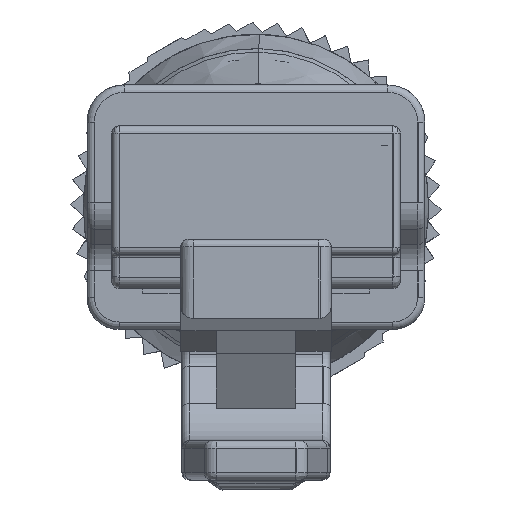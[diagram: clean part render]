
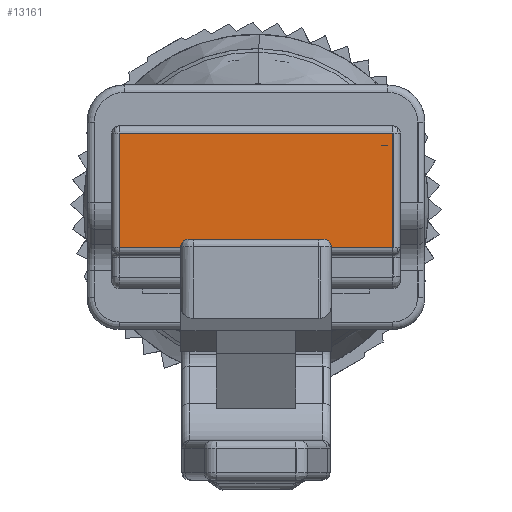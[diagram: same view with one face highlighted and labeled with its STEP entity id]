
A CAD part, left-side view. The second image highlights one B-rep face of the part: STEP entity #13161.
In plain terms, the highlighted planar face has unit normal (-1, 0, 0).
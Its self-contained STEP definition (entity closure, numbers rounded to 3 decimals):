
#980 = VECTOR ( 'NONE', #29069, 1000. ) ;
#1851 = CARTESIAN_POINT ( 'NONE',  ( -286.604, 5.019, -1.938 ) ) ;
#2329 = CARTESIAN_POINT ( 'NONE',  ( -286.604, 2.529, 2.192 ) ) ;
#2653 = DIRECTION ( 'NONE',  ( 0., 1., 0. ) ) ;
#3380 = DIRECTION ( 'NONE',  ( 0., 1., 0. ) ) ;
#3664 = ORIENTED_EDGE ( 'NONE', *, *, #62603, .T. ) ;
#3934 = CARTESIAN_POINT ( 'NONE',  ( -286.604, -5.611, 2.196 ) ) ;
#4379 = FACE_OUTER_BOUND ( 'NONE', #28051, .T. ) ;
#4822 = CARTESIAN_POINT ( 'NONE',  ( -286.604, -3.571, 2.192 ) ) ;
#5380 = EDGE_CURVE ( 'NONE', #25722, #13791, #19134, .T. ) ;
#5382 = ORIENTED_EDGE ( 'NONE', *, *, #11854, .T. ) ;
#5756 = B_SPLINE_CURVE_WITH_KNOTS ( 'NONE', 3,
 ( #44274, #29864, #16099, #54192 ),
 .UNSPECIFIED., .F., .F.,
 ( 4, 4 ),
 ( 0., 1. ),
 .UNSPECIFIED. ) ;
#5758 = CARTESIAN_POINT ( 'NONE',  ( -286.604, -3.571, -1.908 ) ) ;
#6350 = VERTEX_POINT ( 'NONE', #33490 ) ;
#6613 = CARTESIAN_POINT ( 'NONE',  ( -286.604, 5.019, -23.419 ) ) ;
#7095 = CARTESIAN_POINT ( 'NONE',  ( -286.604, -5.611, 2.198 ) ) ;
#7137 = DIRECTION ( 'NONE',  ( 1., 0., 0. ) ) ;
#7574 = VERTEX_POINT ( 'NONE', #20344 ) ;
#7633 = AXIS2_PLACEMENT_3D ( 'NONE', #60804, #17000, #27205 ) ;
#8144 = VECTOR ( 'NONE', #35224, 1000. ) ;
#8788 = VERTEX_POINT ( 'NONE', #16411 ) ;
#9300 = LINE ( 'NONE', #53089, #980 ) ;
#9397 = VECTOR ( 'NONE', #14424, 1000. ) ;
#10901 = EDGE_CURVE ( 'NONE', #22070, #23111, #34784, .T. ) ;
#11528 = ORIENTED_EDGE ( 'NONE', *, *, #37987, .T. ) ;
#11730 = VECTOR ( 'NONE', #38308, 1000. ) ;
#11854 = EDGE_CURVE ( 'NONE', #51992, #16990, #58212, .T. ) ;
#11903 = LINE ( 'NONE', #2329, #24231 ) ;
#12006 = LINE ( 'NONE', #12325, #55083 ) ;
#12325 = CARTESIAN_POINT ( 'NONE',  ( -286.604, 5.369, 2.192 ) ) ;
#12940 = DIRECTION ( 'NONE',  ( 0., 0., 1. ) ) ;
#13094 = AXIS2_PLACEMENT_3D ( 'NONE', #13494, #7137, #2653 ) ;
#13161 = ADVANCED_FACE ( 'NONE', ( #4379, #53595 ), #18738, .F. ) ;
#13494 = CARTESIAN_POINT ( 'NONE',  ( -286.604, -3.271, -1.908 ) ) ;
#13513 = CARTESIAN_POINT ( 'NONE',  ( -286.604, -5.611, 2.192 ) ) ;
#13635 = DIRECTION ( 'NONE',  ( 0., 1., 0. ) ) ;
#13791 = VERTEX_POINT ( 'NONE', #7095 ) ;
#13925 = ORIENTED_EDGE ( 'NONE', *, *, #26184, .T. ) ;
#14424 = DIRECTION ( 'NONE',  ( 0., 0., -1. ) ) ;
#14492 = ORIENTED_EDGE ( 'NONE', *, *, #5380, .T. ) ;
#14791 = LINE ( 'NONE', #59527, #8144 ) ;
#15342 = LINE ( 'NONE', #54336, #19357 ) ;
#16086 = EDGE_CURVE ( 'NONE', #53414, #48850, #11903, .T. ) ;
#16099 = CARTESIAN_POINT ( 'NONE',  ( -286.604, -5.778, 2.198 ) ) ;
#16411 = CARTESIAN_POINT ( 'NONE',  ( -286.604, -5.861, 2.192 ) ) ;
#16990 = VERTEX_POINT ( 'NONE', #24052 ) ;
#17000 = DIRECTION ( 'NONE',  ( 1., 0., 0. ) ) ;
#17426 = EDGE_CURVE ( 'NONE', #29493, #8788, #30065, .T. ) ;
#17798 = ORIENTED_EDGE ( 'NONE', *, *, #52927, .T. ) ;
#18738 = PLANE ( 'NONE',  #53206 ) ;
#19134 = B_SPLINE_CURVE_WITH_KNOTS ( 'NONE', 3,
 ( #13513, #52508, #3934, #62422 ),
 .UNSPECIFIED., .F., .F.,
 ( 4, 4 ),
 ( 0., 1. ),
 .UNSPECIFIED. ) ;
#19357 = VECTOR ( 'NONE', #21053, 1000. ) ;
#19698 = DIRECTION ( 'NONE',  ( 1., 0., 0. ) ) ;
#20344 = CARTESIAN_POINT ( 'NONE',  ( -286.604, 2.229, -1.608 ) ) ;
#21053 = DIRECTION ( 'NONE',  ( 0., 1., 0. ) ) ;
#22070 = VERTEX_POINT ( 'NONE', #37608 ) ;
#22160 = CARTESIAN_POINT ( 'NONE',  ( -286.604, 2.529, -1.908 ) ) ;
#22887 = CARTESIAN_POINT ( 'NONE',  ( -286.604, 2.529, -1.938 ) ) ;
#23111 = VERTEX_POINT ( 'NONE', #1851 ) ;
#23302 = CARTESIAN_POINT ( 'NONE',  ( -286.604, 5.369, -1.938 ) ) ;
#23352 = CARTESIAN_POINT ( 'NONE',  ( -286.604, -5.861, 2.192 ) ) ;
#24052 = CARTESIAN_POINT ( 'NONE',  ( -286.604, -3.571, -1.938 ) ) ;
#24231 = VECTOR ( 'NONE', #25658, 1000. ) ;
#24455 = ORIENTED_EDGE ( 'NONE', *, *, #42436, .T. ) ;
#25658 = DIRECTION ( 'NONE',  ( 0., 0., 1. ) ) ;
#25722 = VERTEX_POINT ( 'NONE', #46496 ) ;
#26184 = EDGE_CURVE ( 'NONE', #23111, #53414, #32583, .T. ) ;
#26421 = ORIENTED_EDGE ( 'NONE', *, *, #10901, .T. ) ;
#27205 = DIRECTION ( 'NONE',  ( 0., -1., 0. ) ) ;
#28051 = EDGE_LOOP ( 'NONE', ( #17798, #40250, #3664, #26421, #13925, #54536, #55858, #11528, #45465, #5382 ) ) ;
#29069 = DIRECTION ( 'NONE',  ( 0., -1., 0. ) ) ;
#29265 = CARTESIAN_POINT ( 'NONE',  ( -286.604, 5.369, 2.192 ) ) ;
#29493 = VERTEX_POINT ( 'NONE', #55821 ) ;
#29763 = CARTESIAN_POINT ( 'NONE',  ( -286.604, -3.271, -1.608 ) ) ;
#29864 = CARTESIAN_POINT ( 'NONE',  ( -286.604, -5.695, 2.198 ) ) ;
#30064 = CIRCLE ( 'NONE', #7633, 0.3 ) ;
#30065 = B_SPLINE_CURVE_WITH_KNOTS ( 'NONE', 3,
 ( #48279, #37425, #47034, #23352 ),
 .UNSPECIFIED., .F., .F.,
 ( 4, 4 ),
 ( 0., 1. ),
 .UNSPECIFIED. ) ;
#32583 = LINE ( 'NONE', #23302, #11730 ) ;
#33034 = EDGE_LOOP ( 'NONE', ( #24455, #53431, #54494, #14492 ) ) ;
#33490 = CARTESIAN_POINT ( 'NONE',  ( -286.604, -6.061, 2.692 ) ) ;
#34142 = EDGE_CURVE ( 'NONE', #48981, #6350, #60910, .T. ) ;
#34784 = LINE ( 'NONE', #6613, #34862 ) ;
#34862 = VECTOR ( 'NONE', #59689, 1000. ) ;
#35224 = DIRECTION ( 'NONE',  ( 0., -1., 0. ) ) ;
#37425 = CARTESIAN_POINT ( 'NONE',  ( -286.604, -5.861, 2.196 ) ) ;
#37608 = CARTESIAN_POINT ( 'NONE',  ( -286.604, 5.019, 2.692 ) ) ;
#37987 = EDGE_CURVE ( 'NONE', #7574, #45084, #9300, .T. ) ;
#38308 = DIRECTION ( 'NONE',  ( 0., -1., 0. ) ) ;
#40250 = ORIENTED_EDGE ( 'NONE', *, *, #34142, .T. ) ;
#40785 = EDGE_CURVE ( 'NONE', #8788, #25722, #12006, .T. ) ;
#42436 = EDGE_CURVE ( 'NONE', #13791, #29493, #5756, .T. ) ;
#44274 = CARTESIAN_POINT ( 'NONE',  ( -286.604, -5.611, 2.198 ) ) ;
#44356 = EDGE_CURVE ( 'NONE', #48850, #7574, #30064, .T. ) ;
#45084 = VERTEX_POINT ( 'NONE', #29763 ) ;
#45465 = ORIENTED_EDGE ( 'NONE', *, *, #61160, .T. ) ;
#45780 = CIRCLE ( 'NONE', #13094, 0.3 ) ;
#46209 = CARTESIAN_POINT ( 'NONE',  ( -286.604, -6.061, 17.937 ) ) ;
#46496 = CARTESIAN_POINT ( 'NONE',  ( -286.604, -5.611, 2.192 ) ) ;
#47034 = CARTESIAN_POINT ( 'NONE',  ( -286.604, -5.861, 2.194 ) ) ;
#48279 = CARTESIAN_POINT ( 'NONE',  ( -286.604, -5.861, 2.198 ) ) ;
#48850 = VERTEX_POINT ( 'NONE', #22160 ) ;
#48981 = VERTEX_POINT ( 'NONE', #58261 ) ;
#51309 = VECTOR ( 'NONE', #12940, 1000. ) ;
#51992 = VERTEX_POINT ( 'NONE', #5758 ) ;
#52508 = CARTESIAN_POINT ( 'NONE',  ( -286.604, -5.611, 2.194 ) ) ;
#52927 = EDGE_CURVE ( 'NONE', #16990, #48981, #14791, .T. ) ;
#53089 = CARTESIAN_POINT ( 'NONE',  ( -286.604, 5.369, -1.608 ) ) ;
#53206 = AXIS2_PLACEMENT_3D ( 'NONE', #29265, #19698, #13635 ) ;
#53414 = VERTEX_POINT ( 'NONE', #22887 ) ;
#53431 = ORIENTED_EDGE ( 'NONE', *, *, #17426, .T. ) ;
#53595 = FACE_BOUND ( 'NONE', #33034, .T. ) ;
#54192 = CARTESIAN_POINT ( 'NONE',  ( -286.604, -5.861, 2.198 ) ) ;
#54336 = CARTESIAN_POINT ( 'NONE',  ( -286.604, 5.369, 2.692 ) ) ;
#54494 = ORIENTED_EDGE ( 'NONE', *, *, #40785, .T. ) ;
#54536 = ORIENTED_EDGE ( 'NONE', *, *, #16086, .T. ) ;
#55083 = VECTOR ( 'NONE', #3380, 1000. ) ;
#55821 = CARTESIAN_POINT ( 'NONE',  ( -286.604, -5.861, 2.198 ) ) ;
#55858 = ORIENTED_EDGE ( 'NONE', *, *, #44356, .T. ) ;
#58212 = LINE ( 'NONE', #4822, #9397 ) ;
#58261 = CARTESIAN_POINT ( 'NONE',  ( -286.604, -6.061, -1.938 ) ) ;
#59527 = CARTESIAN_POINT ( 'NONE',  ( -286.604, 5.369, -1.938 ) ) ;
#59689 = DIRECTION ( 'NONE',  ( 0., 0., -1. ) ) ;
#60804 = CARTESIAN_POINT ( 'NONE',  ( -286.604, 2.229, -1.908 ) ) ;
#60910 = LINE ( 'NONE', #46209, #51309 ) ;
#61160 = EDGE_CURVE ( 'NONE', #45084, #51992, #45780, .T. ) ;
#62422 = CARTESIAN_POINT ( 'NONE',  ( -286.604, -5.611, 2.198 ) ) ;
#62603 = EDGE_CURVE ( 'NONE', #6350, #22070, #15342, .T. ) ;
